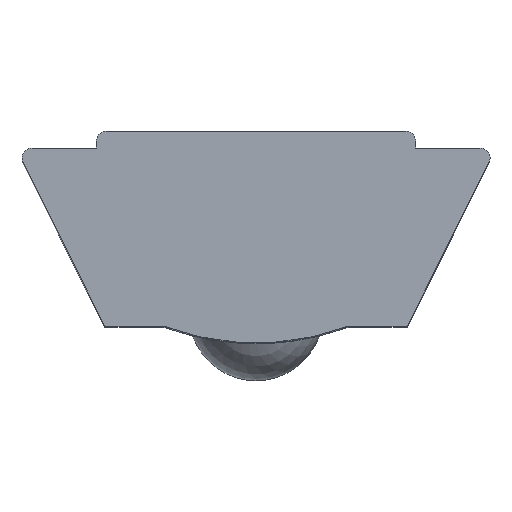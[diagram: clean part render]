
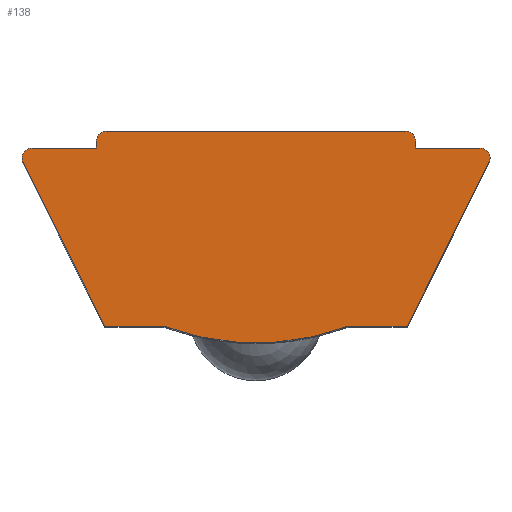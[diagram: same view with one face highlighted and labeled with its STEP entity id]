
A CAD part, top view. The second image highlights one B-rep face of the part: STEP entity #138.
In plain terms, the highlighted planar face has unit normal (0, 0, 1).
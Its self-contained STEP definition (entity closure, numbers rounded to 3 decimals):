
#7 = CARTESIAN_POINT ( 'NONE',  ( 4.75, 6., 10. ) ) ;
#12 = PLANE ( 'NONE',  #205 ) ;
#18 = CARTESIAN_POINT ( 'NONE',  ( -4.75, 6.3, 10. ) ) ;
#21 = VERTEX_POINT ( 'NONE', #374 ) ;
#25 = DIRECTION ( 'NONE',  ( -1., 0., 0. ) ) ;
#29 = CARTESIAN_POINT ( 'NONE',  ( 4.75, 5.8, 10. ) ) ;
#31 = DIRECTION ( 'NONE',  ( 0.447, 0.894, 0. ) ) ;
#34 = CARTESIAN_POINT ( 'NONE',  ( 7.15, 5.8, 10. ) ) ;
#36 = DIRECTION ( 'NONE',  ( 1., 0., 0. ) ) ;
#46 = EDGE_CURVE ( 'NONE', #722, #455, #874, .T. ) ;
#62 = DIRECTION ( 'NONE',  ( 1., 0., 0. ) ) ;
#64 = CARTESIAN_POINT ( 'NONE',  ( 4.5, 0.5, 10. ) ) ;
#103 = ORIENTED_EDGE ( 'NONE', *, *, #361, .T. ) ;
#115 = CARTESIAN_POINT ( 'NONE',  ( 4.75, 6.3, 10. ) ) ;
#116 = DIRECTION ( 'NONE',  ( 1., 0., 0. ) ) ;
#118 = CIRCLE ( 'NONE', #803, 0.3 ) ;
#121 = DIRECTION ( 'NONE',  ( 0., 0., 1. ) ) ;
#122 = CARTESIAN_POINT ( 'NONE',  ( 0., 7.813, 10. ) ) ;
#127 = CIRCLE ( 'NONE', #805, 0.3 ) ;
#129 = CIRCLE ( 'NONE', #817, 0.3 ) ;
#131 = CIRCLE ( 'NONE', #819, 0.3 ) ;
#138 = ADVANCED_FACE ( 'NONE', ( #303 ), #12, .T. ) ;
#140 = EDGE_CURVE ( 'NONE', #555, #530, #298, .T. ) ;
#141 = CIRCLE ( 'NONE', #839, 0.3 ) ;
#143 = VECTOR ( 'NONE', #711, 1000. ) ;
#144 = VECTOR ( 'NONE', #669, 1000. ) ;
#152 = LINE ( 'NONE', #18, #144 ) ;
#154 = EDGE_CURVE ( 'NONE', #21, #766, #292, .T. ) ;
#155 = LINE ( 'NONE', #115, #143 ) ;
#182 = VECTOR ( 'NONE', #25, 1000. ) ;
#194 = VECTOR ( 'NONE', #31, 1000. ) ;
#195 = LINE ( 'NONE', #29, #182 ) ;
#198 = LINE ( 'NONE', #34, #194 ) ;
#205 = AXIS2_PLACEMENT_3D ( 'NONE', #815, #810, #785 ) ;
#210 = LINE ( 'NONE', #64, #212 ) ;
#211 = ORIENTED_EDGE ( 'NONE', *, *, #337, .T. ) ;
#212 = VECTOR ( 'NONE', #62, 1000. ) ;
#215 = EDGE_CURVE ( 'NONE', #766, #701, #244, .T. ) ;
#229 = CIRCLE ( 'NONE', #476, 7.813 ) ;
#234 = VECTOR ( 'NONE', #286, 1000. ) ;
#241 = DIRECTION ( 'NONE',  ( 0., 0., 1. ) ) ;
#244 = LINE ( 'NONE', #329, #234 ) ;
#245 = EDGE_CURVE ( 'NONE', #701, #427, #229, .T. ) ;
#264 = EDGE_CURVE ( 'NONE', #427, #471, #210, .T. ) ;
#277 = DIRECTION ( 'NONE',  ( 1., 0., 0. ) ) ;
#280 = CARTESIAN_POINT ( 'NONE',  ( 6.665, 5.5, 10. ) ) ;
#286 = DIRECTION ( 'NONE',  ( 1., 0., 0. ) ) ;
#292 = LINE ( 'NONE', #625, #313 ) ;
#294 = CARTESIAN_POINT ( 'NONE',  ( -6.965, 5.5, 10. ) ) ;
#298 = LINE ( 'NONE', #738, #304 ) ;
#299 = EDGE_CURVE ( 'NONE', #471, #549, #198, .T. ) ;
#300 = EDGE_CURVE ( 'NONE', #523, #690, #195, .T. ) ;
#303 = FACE_OUTER_BOUND ( 'NONE', #509, .T. ) ;
#304 = VECTOR ( 'NONE', #735, 1000. ) ;
#313 = VECTOR ( 'NONE', #614, 1000. ) ;
#327 = CARTESIAN_POINT ( 'NONE',  ( -6.665, 5.5, 10. ) ) ;
#329 = CARTESIAN_POINT ( 'NONE',  ( -4.5, 0.5, 10. ) ) ;
#331 = VERTEX_POINT ( 'NONE', #7 ) ;
#334 = EDGE_CURVE ( 'NONE', #690, #331, #155, .T. ) ;
#337 = EDGE_CURVE ( 'NONE', #515, #555, #152, .T. ) ;
#341 = DIRECTION ( 'NONE',  ( 0., 0., 1. ) ) ;
#350 = DIRECTION ( 'NONE',  ( 1., 0., 0. ) ) ;
#361 = EDGE_CURVE ( 'NONE', #331, #722, #141, .T. ) ;
#366 = EDGE_CURVE ( 'NONE', #455, #515, #131, .T. ) ;
#373 = EDGE_CURVE ( 'NONE', #398, #21, #129, .T. ) ;
#374 = CARTESIAN_POINT ( 'NONE',  ( -6.933, 5.366, 10. ) ) ;
#381 = EDGE_CURVE ( 'NONE', #530, #398, #127, .T. ) ;
#382 = VECTOR ( 'NONE', #747, 1000. ) ;
#383 = DIRECTION ( 'NONE',  ( 0., 0., 1. ) ) ;
#385 = EDGE_CURVE ( 'NONE', #549, #523, #118, .T. ) ;
#397 = ORIENTED_EDGE ( 'NONE', *, *, #154, .T. ) ;
#398 = VERTEX_POINT ( 'NONE', #294 ) ;
#424 = DIRECTION ( 'NONE',  ( 1., 0., 0. ) ) ;
#427 = VERTEX_POINT ( 'NONE', #794 ) ;
#432 = CARTESIAN_POINT ( 'NONE',  ( -6.665, 5.5, 10. ) ) ;
#439 = ORIENTED_EDGE ( 'NONE', *, *, #300, .T. ) ;
#440 = ORIENTED_EDGE ( 'NONE', *, *, #385, .T. ) ;
#443 = ORIENTED_EDGE ( 'NONE', *, *, #373, .T. ) ;
#444 = ORIENTED_EDGE ( 'NONE', *, *, #215, .T. ) ;
#445 = ORIENTED_EDGE ( 'NONE', *, *, #140, .T. ) ;
#450 = CARTESIAN_POINT ( 'NONE',  ( -4.5, 0.5, 10. ) ) ;
#451 = ORIENTED_EDGE ( 'NONE', *, *, #299, .T. ) ;
#452 = ORIENTED_EDGE ( 'NONE', *, *, #245, .T. ) ;
#454 = ORIENTED_EDGE ( 'NONE', *, *, #264, .T. ) ;
#455 = VERTEX_POINT ( 'NONE', #756 ) ;
#469 = CARTESIAN_POINT ( 'NONE',  ( 4.75, 5.8, 10. ) ) ;
#471 = VERTEX_POINT ( 'NONE', #653 ) ;
#473 = CARTESIAN_POINT ( 'NONE',  ( -2.75, 0.5, 10. ) ) ;
#476 = AXIS2_PLACEMENT_3D ( 'NONE', #122, #121, #116 ) ;
#484 = DIRECTION ( 'NONE',  ( 0., 0., 1. ) ) ;
#492 = CARTESIAN_POINT ( 'NONE',  ( -4.45, 6., 10. ) ) ;
#493 = DIRECTION ( 'NONE',  ( 0., 0., 1. ) ) ;
#499 = CARTESIAN_POINT ( 'NONE',  ( 4.45, 6., 10. ) ) ;
#509 = EDGE_LOOP ( 'NONE', ( #674, #103, #592, #673, #211, #445, #790, #443, #397, #444, #452, #454, #451, #440, #439 ) ) ;
#515 = VERTEX_POINT ( 'NONE', #613 ) ;
#518 = CARTESIAN_POINT ( 'NONE',  ( 4.45, 6.3, 10. ) ) ;
#523 = VERTEX_POINT ( 'NONE', #573 ) ;
#529 = CARTESIAN_POINT ( 'NONE',  ( -4.75, 5.8, 10. ) ) ;
#530 = VERTEX_POINT ( 'NONE', #597 ) ;
#549 = VERTEX_POINT ( 'NONE', #554 ) ;
#554 = CARTESIAN_POINT ( 'NONE',  ( 6.933, 5.366, 10. ) ) ;
#555 = VERTEX_POINT ( 'NONE', #529 ) ;
#573 = CARTESIAN_POINT ( 'NONE',  ( 6.665, 5.8, 10. ) ) ;
#592 = ORIENTED_EDGE ( 'NONE', *, *, #46, .T. ) ;
#597 = CARTESIAN_POINT ( 'NONE',  ( -6.665, 5.8, 10. ) ) ;
#613 = CARTESIAN_POINT ( 'NONE',  ( -4.75, 6., 10. ) ) ;
#614 = DIRECTION ( 'NONE',  ( 0.447, -0.894, 0. ) ) ;
#625 = CARTESIAN_POINT ( 'NONE',  ( -7.15, 5.8, 10. ) ) ;
#653 = CARTESIAN_POINT ( 'NONE',  ( 4.5, 0.5, 10. ) ) ;
#669 = DIRECTION ( 'NONE',  ( 0., -1., 0. ) ) ;
#673 = ORIENTED_EDGE ( 'NONE', *, *, #366, .T. ) ;
#674 = ORIENTED_EDGE ( 'NONE', *, *, #334, .T. ) ;
#690 = VERTEX_POINT ( 'NONE', #469 ) ;
#701 = VERTEX_POINT ( 'NONE', #473 ) ;
#711 = DIRECTION ( 'NONE',  ( 0., 1., 0. ) ) ;
#722 = VERTEX_POINT ( 'NONE', #518 ) ;
#735 = DIRECTION ( 'NONE',  ( -1., 0., 0. ) ) ;
#738 = CARTESIAN_POINT ( 'NONE',  ( -4.75, 5.8, 10. ) ) ;
#747 = DIRECTION ( 'NONE',  ( -1., 0., 0. ) ) ;
#756 = CARTESIAN_POINT ( 'NONE',  ( -4.45, 6.3, 10. ) ) ;
#766 = VERTEX_POINT ( 'NONE', #450 ) ;
#785 = DIRECTION ( 'NONE',  ( 1., 0., 0. ) ) ;
#788 = CARTESIAN_POINT ( 'NONE',  ( -4.75, 6.3, 10. ) ) ;
#790 = ORIENTED_EDGE ( 'NONE', *, *, #381, .T. ) ;
#794 = CARTESIAN_POINT ( 'NONE',  ( 2.75, 0.5, 10. ) ) ;
#803 = AXIS2_PLACEMENT_3D ( 'NONE', #280, #241, #277 ) ;
#805 = AXIS2_PLACEMENT_3D ( 'NONE', #327, #341, #424 ) ;
#810 = DIRECTION ( 'NONE',  ( 0., 0., 1. ) ) ;
#815 = CARTESIAN_POINT ( 'NONE',  ( 0., 7.813, 10. ) ) ;
#817 = AXIS2_PLACEMENT_3D ( 'NONE', #432, #383, #350 ) ;
#819 = AXIS2_PLACEMENT_3D ( 'NONE', #492, #484, #36 ) ;
#839 = AXIS2_PLACEMENT_3D ( 'NONE', #499, #493, #852 ) ;
#852 = DIRECTION ( 'NONE',  ( 1., 0., 0. ) ) ;
#874 = LINE ( 'NONE', #788, #382 ) ;
